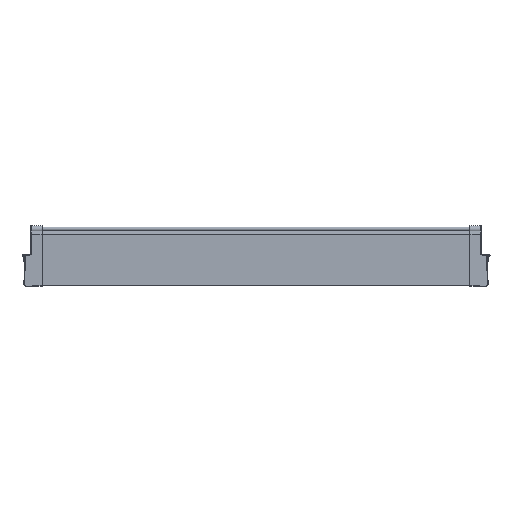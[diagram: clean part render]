
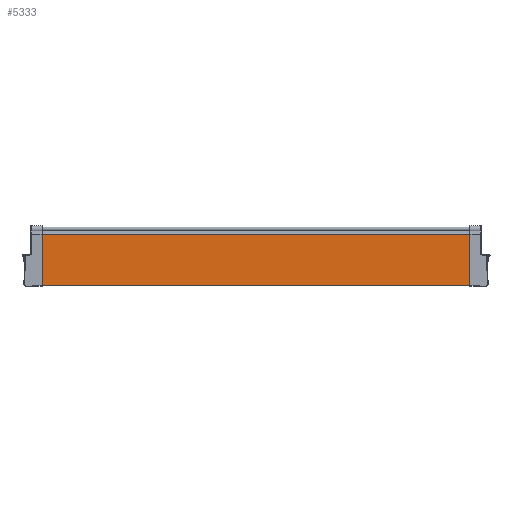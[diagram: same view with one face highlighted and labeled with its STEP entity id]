
A CAD part, top view. The second image highlights one B-rep face of the part: STEP entity #5333.
In plain terms, the highlighted planar face has unit normal (0, 0, 1).
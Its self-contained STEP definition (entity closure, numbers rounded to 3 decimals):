
#5290 = EDGE_CURVE ( 'NONE', #6304, #5339, #7909, .T. ) ;
#5330 = VERTEX_POINT ( 'NONE', #7963 ) ;
#5332 = EDGE_CURVE ( 'NONE', #6305, #5330, #7962, .T. ) ;
#5333 = ADVANCED_FACE ( 'NONE', ( #7958 ), #7957, .F. ) ;
#5334 = EDGE_LOOP ( 'NONE', ( #5335, #5336, #5337, #5340 ) ) ;
#5335 = ORIENTED_EDGE ( 'NONE', *, *, #6301, .F. ) ;
#5336 = ORIENTED_EDGE ( 'NONE', *, *, #5332, .T. ) ;
#5337 = ORIENTED_EDGE ( 'NONE', *, *, #5338, .T. ) ;
#5338 = EDGE_CURVE ( 'NONE', #5330, #5339, #7952, .T. ) ;
#5339 = VERTEX_POINT ( 'NONE', #7948 ) ;
#5340 = ORIENTED_EDGE ( 'NONE', *, *, #5290, .F. ) ;
#6301 = EDGE_CURVE ( 'NONE', #6305, #6304, #10871, .T. ) ;
#6304 = VERTEX_POINT ( 'NONE', #10862 ) ;
#6305 = VERTEX_POINT ( 'NONE', #10861 ) ;
#7906 = DIRECTION ( 'NONE',  ( -1., 0., 0. ) ) ;
#7907 = VECTOR ( 'NONE', #7906, 1000. ) ;
#7908 = CARTESIAN_POINT ( 'NONE',  ( 89.157, -64.725, 4.05 ) ) ;
#7909 = LINE ( 'NONE', #7908, #7907 ) ;
#7948 = CARTESIAN_POINT ( 'NONE',  ( -968.3, -64.725, 4.05 ) ) ;
#7949 = DIRECTION ( 'NONE',  ( 0., -1., 0. ) ) ;
#7950 = VECTOR ( 'NONE', #7949, 1000. ) ;
#7951 = CARTESIAN_POINT ( 'NONE',  ( -968.3, 45.248, 4.05 ) ) ;
#7952 = LINE ( 'NONE', #7951, #7950 ) ;
#7953 = DIRECTION ( 'NONE',  ( 0., 1., 0. ) ) ;
#7954 = DIRECTION ( 'NONE',  ( 0., 0., -1. ) ) ;
#7955 = CARTESIAN_POINT ( 'NONE',  ( 89.157, 45.248, 4.05 ) ) ;
#7956 = AXIS2_PLACEMENT_3D ( 'NONE', #7955, #7954, #7953 ) ;
#7957 = PLANE ( 'NONE',  #7956 ) ;
#7958 = FACE_OUTER_BOUND ( 'NONE', #5334, .T. ) ;
#7959 = DIRECTION ( 'NONE',  ( -1., 0., 0. ) ) ;
#7960 = VECTOR ( 'NONE', #7959, 1000. ) ;
#7961 = CARTESIAN_POINT ( 'NONE',  ( 89.157, 45.248, 4.05 ) ) ;
#7962 = LINE ( 'NONE', #7961, #7960 ) ;
#7963 = CARTESIAN_POINT ( 'NONE',  ( -968.3, 45.248, 4.05 ) ) ;
#10861 = CARTESIAN_POINT ( 'NONE',  ( -38.8, 45.248, 4.05 ) ) ;
#10862 = CARTESIAN_POINT ( 'NONE',  ( -38.8, -64.725, 4.05 ) ) ;
#10868 = DIRECTION ( 'NONE',  ( 0., -1., 0. ) ) ;
#10869 = VECTOR ( 'NONE', #10868, 1000. ) ;
#10870 = CARTESIAN_POINT ( 'NONE',  ( -38.8, 45.248, 4.05 ) ) ;
#10871 = LINE ( 'NONE', #10870, #10869 ) ;
